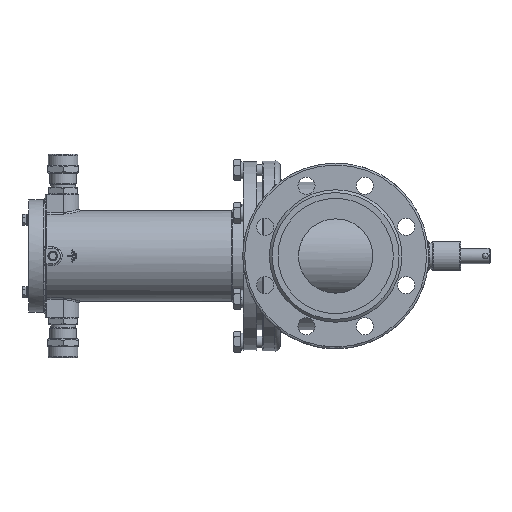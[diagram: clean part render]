
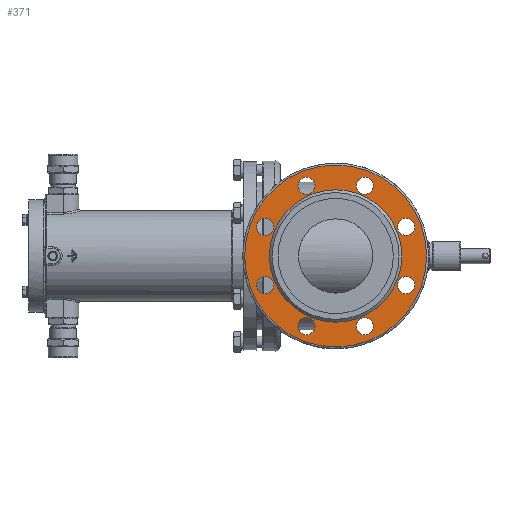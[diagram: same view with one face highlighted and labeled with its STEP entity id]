
A CAD part, left-side view. The second image highlights one B-rep face of the part: STEP entity #371.
In plain terms, the highlighted planar face has unit normal (-1, 0, 0).
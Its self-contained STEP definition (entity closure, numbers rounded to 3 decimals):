
#371=ADVANCED_FACE('',(#7749,#7751,#7753,#7755,#7757,#7759,#7761,#7763,#7765,#7767),
#7769,.T.);
#7749=FACE_BOUND('',#7750,.T.);
#7750=EDGE_LOOP('',(#23257));
#7751=FACE_BOUND('',#7752,.T.);
#7752=EDGE_LOOP('',(#23258));
#7753=FACE_BOUND('',#7754,.T.);
#7754=EDGE_LOOP('',(#23259));
#7755=FACE_BOUND('',#7756,.T.);
#7756=EDGE_LOOP('',(#23260));
#7757=FACE_BOUND('',#7758,.T.);
#7758=EDGE_LOOP('',(#23261));
#7759=FACE_BOUND('',#7760,.T.);
#7760=EDGE_LOOP('',(#23262));
#7761=FACE_BOUND('',#7762,.T.);
#7762=EDGE_LOOP('',(#23263));
#7763=FACE_BOUND('',#7764,.T.);
#7764=EDGE_LOOP('',(#23264));
#7765=FACE_BOUND('',#7766,.T.);
#7766=EDGE_LOOP('',(#23265));
#7767=FACE_OUTER_BOUND('',#7768,.T.);
#7768=EDGE_LOOP('',(#23266));
#7769=PLANE('',#7770);
#7770=AXIS2_PLACEMENT_3D('',#7771,#7772,#7773);
#7771=CARTESIAN_POINT('',(-151.,0.,0.));
#7772=DIRECTION('',(-1.,0.,0.));
#7773=DIRECTION('',(0.,1.,0.));
#23257=ORIENTED_EDGE('',*,*,#34834,.T.);
#23258=ORIENTED_EDGE('',*,*,#34832,.T.);
#23259=ORIENTED_EDGE('',*,*,#34830,.T.);
#23260=ORIENTED_EDGE('',*,*,#34828,.T.);
#23261=ORIENTED_EDGE('',*,*,#34826,.T.);
#23262=ORIENTED_EDGE('',*,*,#34824,.T.);
#23263=ORIENTED_EDGE('',*,*,#34822,.T.);
#23264=ORIENTED_EDGE('',*,*,#34820,.T.);
#23265=ORIENTED_EDGE('',*,*,#34861,.F.);
#23266=ORIENTED_EDGE('',*,*,#34862,.T.);
#34820=EDGE_CURVE('',#40155,#40155,#40157,.T.);
#34822=EDGE_CURVE('',#40158,#40158,#40160,.T.);
#34824=EDGE_CURVE('',#40161,#40161,#40163,.T.);
#34826=EDGE_CURVE('',#40164,#40164,#40166,.T.);
#34828=EDGE_CURVE('',#40167,#40167,#40169,.T.);
#34830=EDGE_CURVE('',#40170,#40170,#40172,.T.);
#34832=EDGE_CURVE('',#40173,#40173,#40175,.T.);
#34834=EDGE_CURVE('',#40176,#40176,#40178,.T.);
#34861=EDGE_CURVE('',#40220,#40220,#40221,.T.);
#34862=EDGE_CURVE('',#40222,#40222,#40223,.T.);
#40155=VERTEX_POINT('',#53859);
#40157=CIRCLE('',#53863,9.);
#40158=VERTEX_POINT('',#53867);
#40160=CIRCLE('',#53871,9.);
#40161=VERTEX_POINT('',#53875);
#40163=CIRCLE('',#53879,9.);
#40164=VERTEX_POINT('',#53883);
#40166=CIRCLE('',#53887,9.);
#40167=VERTEX_POINT('',#53891);
#40169=CIRCLE('',#53895,9.);
#40170=VERTEX_POINT('',#53899);
#40172=CIRCLE('',#53903,9.);
#40173=VERTEX_POINT('',#53907);
#40175=CIRCLE('',#53911,9.);
#40176=VERTEX_POINT('',#53915);
#40178=CIRCLE('',#53919,9.);
#40220=VERTEX_POINT('',#54232);
#40221=CIRCLE('',#54233,69.5);
#40222=VERTEX_POINT('',#54237);
#40223=CIRCLE('',#54238,95.5);
#53859=CARTESIAN_POINT('',(-151.,30.615,64.91));
#53863=AXIS2_PLACEMENT_3D('',#53864,#53865,#53866);
#53864=CARTESIAN_POINT('',(-151.,30.615,73.91));
#53865=DIRECTION('',(1.,0.,0.));
#53866=DIRECTION('',(0.,-1.,0.));
#53867=CARTESIAN_POINT('',(-151.,30.615,-82.91));
#53871=AXIS2_PLACEMENT_3D('',#53872,#53873,#53874);
#53872=CARTESIAN_POINT('',(-151.,30.615,-73.91));
#53873=DIRECTION('',(1.,0.,0.));
#53874=DIRECTION('',(0.,-1.,0.));
#53875=CARTESIAN_POINT('',(-151.,73.91,21.615));
#53879=AXIS2_PLACEMENT_3D('',#53880,#53881,#53882);
#53880=CARTESIAN_POINT('',(-151.,73.91,30.615));
#53881=DIRECTION('',(1.,0.,0.));
#53882=DIRECTION('',(0.,-1.,0.));
#53883=CARTESIAN_POINT('',(-151.,-30.615,-82.91));
#53887=AXIS2_PLACEMENT_3D('',#53888,#53889,#53890);
#53888=CARTESIAN_POINT('',(-151.,-30.615,-73.91));
#53889=DIRECTION('',(1.,0.,0.));
#53890=DIRECTION('',(0.,-1.,0.));
#53891=CARTESIAN_POINT('',(-151.,-73.91,21.615));
#53895=AXIS2_PLACEMENT_3D('',#53896,#53897,#53898);
#53896=CARTESIAN_POINT('',(-151.,-73.91,30.615));
#53897=DIRECTION('',(1.,0.,0.));
#53898=DIRECTION('',(0.,-1.,0.));
#53899=CARTESIAN_POINT('',(-151.,-30.615,64.91));
#53903=AXIS2_PLACEMENT_3D('',#53904,#53905,#53906);
#53904=CARTESIAN_POINT('',(-151.,-30.615,73.91));
#53905=DIRECTION('',(1.,0.,0.));
#53906=DIRECTION('',(0.,-1.,0.));
#53907=CARTESIAN_POINT('',(-151.,73.91,-39.615));
#53911=AXIS2_PLACEMENT_3D('',#53912,#53913,#53914);
#53912=CARTESIAN_POINT('',(-151.,73.91,-30.615));
#53913=DIRECTION('',(1.,0.,0.));
#53914=DIRECTION('',(0.,-1.,0.));
#53915=CARTESIAN_POINT('',(-151.,-73.91,-39.615));
#53919=AXIS2_PLACEMENT_3D('',#53920,#53921,#53922);
#53920=CARTESIAN_POINT('',(-151.,-73.91,-30.615));
#53921=DIRECTION('',(1.,0.,0.));
#53922=DIRECTION('',(0.,-1.,0.));
#54232=CARTESIAN_POINT('',(-151.,-69.5,0.));
#54233=AXIS2_PLACEMENT_3D('',#54234,#54235,#54236);
#54234=CARTESIAN_POINT('',(-151.,0.,0.));
#54235=DIRECTION('',(-1.,0.,0.));
#54236=DIRECTION('',(0.,1.,0.));
#54237=CARTESIAN_POINT('',(-151.,-95.5,0.));
#54238=AXIS2_PLACEMENT_3D('',#54239,#54240,#54241);
#54239=CARTESIAN_POINT('',(-151.,0.,0.));
#54240=DIRECTION('',(-1.,0.,0.));
#54241=DIRECTION('',(0.,1.,0.));
